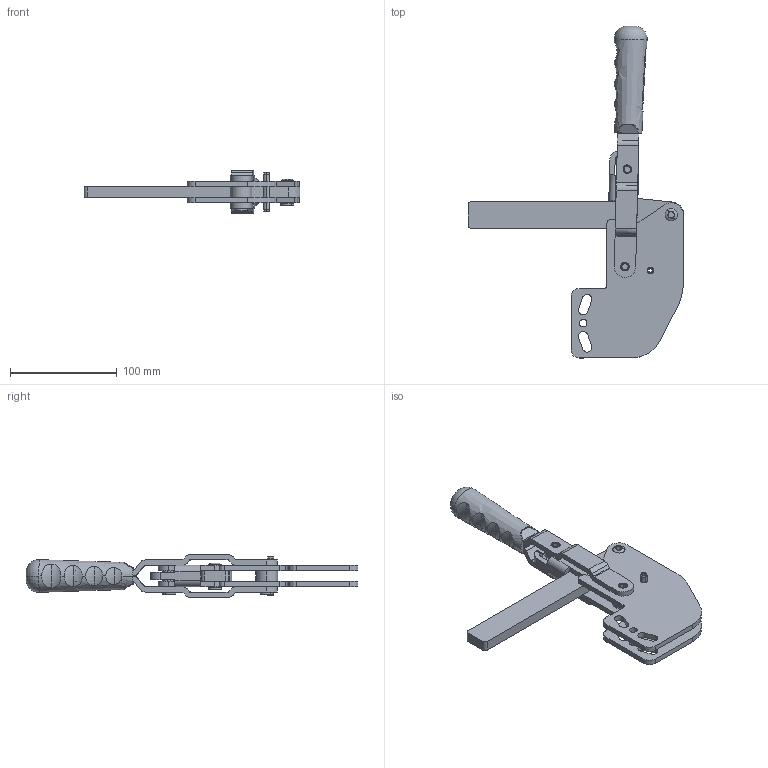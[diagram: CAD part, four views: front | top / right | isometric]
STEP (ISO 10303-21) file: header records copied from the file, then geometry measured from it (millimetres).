
FILE_DESCRIPTION (( 'STEP AP203' ), '1' );
FILE_NAME ('1106_P_L1.STEP', '2025-03-03T13:56:44', ( '' ), ( '' ), 'SwSTEP 2.0', 'SolidWorks 2025', '' );
FILE_SCHEMA (( 'CONFIG_CONTROL_DESIGN' ));
Length unit declared in the file: millimetre
Products named in the file (14): Mirror1106_A_G(GÖVDE)_Varsayılan; Mirror1106_HK(HAREKET_KOLU)_Varsayılan; $PLMPRP__V_Name__Varsayılan; Ø8x33_P(PERÇİN)_Varsayılan; 1106_HK(HAREKET_KOLU)_Varsayılan; C100_T_10x20(YENİ_TUTAMAK_10x20)_Varsayılan; 1106_A_G(GÖVDE)_Varsayılan; Ø12xØ8x10_B(BURÇ)_Varsayılan; 1106_BK_L1(BASKI_KOLU_LAMA1); Ø12xØ8x20_B(BURÇ)_Varsayılan; 1106_P_L1; Ø20,5xØ12,5x10_LY(LAZER_YÜZÜK)_Varsayılan; Ø6x36_YP(YARIKLI_PİM)_Varsayılan; 1106_M(MAFSAL)_Varsayılan
Assembly tree (17 placements, depth 2):
  1106_P_L1
    1106_A_G(GÖVDE)_Varsayılan
    1106_BK_L1(BASKI_KOLU_LAMA1)
    1106_HK(HAREKET_KOLU)_Varsayılan
    Ø12xØ8x10_B(BURÇ)_Varsayılan  x2
    Ø12xØ8x20_B(BURÇ)_Varsayılan  x2
    1106_M(MAFSAL)_Varsayılan
    Mirror1106_A_G(GÖVDE)_Varsayılan
    Mirror1106_HK(HAREKET_KOLU)_Varsayılan
    Ø8x33_P(PERÇİN)_Varsayılan  x2
    $PLMPRP__V_Name__Varsayılan  x2
    Ø6x36_YP(YARIKLI_PİM)_Varsayılan
    C100_T_10x20(YENİ_TUTAMAK_10x20)_Varsayılan
    Ø20,5xØ12,5x10_LY(LAZER_YÜZÜK)_Varsayılan
Bounding box: 201.96 x 310.54 x 40 mm (x, y, z)
Volume: 263113.2 mm3; surface area: 121540.5 mm2
Topology: 17 solids, 17 shells, 922 faces, 2392 edges, 1544 vertices
Faces by surface type: plane 555, cylinder 239, cone 84, torus 34, bspline 10
Entity records: 22882 total; most frequent: CARTESIAN_POINT 4860, ORIENTED_EDGE 3456, DIRECTION 3397, EDGE_CURVE 1728, AXIS2_PLACEMENT_3D 1169, VERTEX_POINT 1124, LINE 1059, VECTOR 1059
